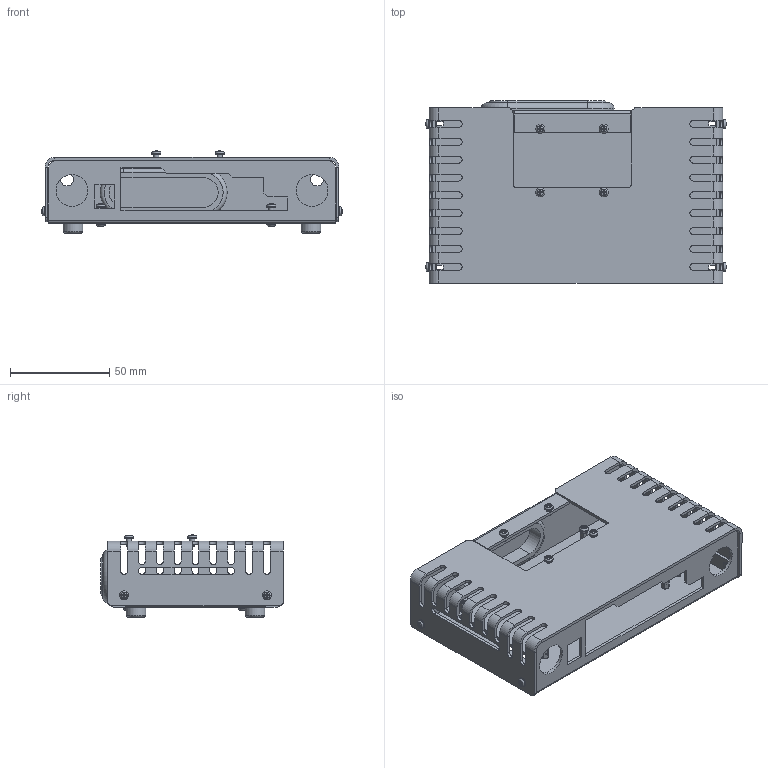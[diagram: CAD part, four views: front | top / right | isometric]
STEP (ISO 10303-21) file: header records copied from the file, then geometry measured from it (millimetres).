
FILE_DESCRIPTION(/* description */ (''),/* implementation_level */ '2;1');
FILE_NAME(/* name */ 'Open_stp ALcase Rev2 for Jetaon Nano.step',/* time_stamp */ '2020-02-13T13:13:03+09:00',/* author */ (''),/* organization */ (''),/* preprocessor_version */ 'ST-DEVELOPER v18',/* originating_system */ 'Autodesk Translation Framework v8.12.0.6',/* authorisation */ '');
FILE_SCHEMA (('AUTOMOTIVE_DESIGN { 1 0 10303 214 3 1 1 }'));
Length unit declared in the file: millimetre
Products named in the file (7): Open_stp ALcase Rev2 for Jetaon Nano; ASB-2605-3E; C-30-RK-10-black; C-30-SG-20-60A-EP-UL; ND269-004C ベース; ND26-005 カバー; M2_6-4 Pan Head Screw
Assembly tree (31 placements, depth 2):
  Open_stp ALcase Rev2 for Jetaon Nano
    ASB-2605-3E  x4
    C-30-RK-10-black  x4
    C-30-SG-20-60A-EP-UL
    ND269-004C ベース
    ND26-005 カバー
    M2_6-4 Pan Head Screw  x20
Bounding box: 151.57 x 92 x 41.44 mm (x, y, z)
Volume: 57420.2 mm3; surface area: 80643.8 mm2
Topology: 31 solids, 31 shells, 861 faces, 2341 edges, 1506 vertices
Faces by surface type: plane 541, cylinder 202, bspline 48, torus 30, cone 20, sphere 20
Full cylindrical faces by diameter (mm): 2.175 x16, 2.6 x20, 2.8 x4, 3 x4, 3.5 x4, 4.5 x20, 5 x4, 6.5 x2, 10 x4, 16.1 x2
Entity records: 13406 total; most frequent: CARTESIAN_POINT 2362, DIRECTION 2318, ORIENTED_EDGE 2232, EDGE_CURVE 1116, AXIS2_PLACEMENT_3D 778, LINE 762, VECTOR 762, VERTEX_POINT 702
